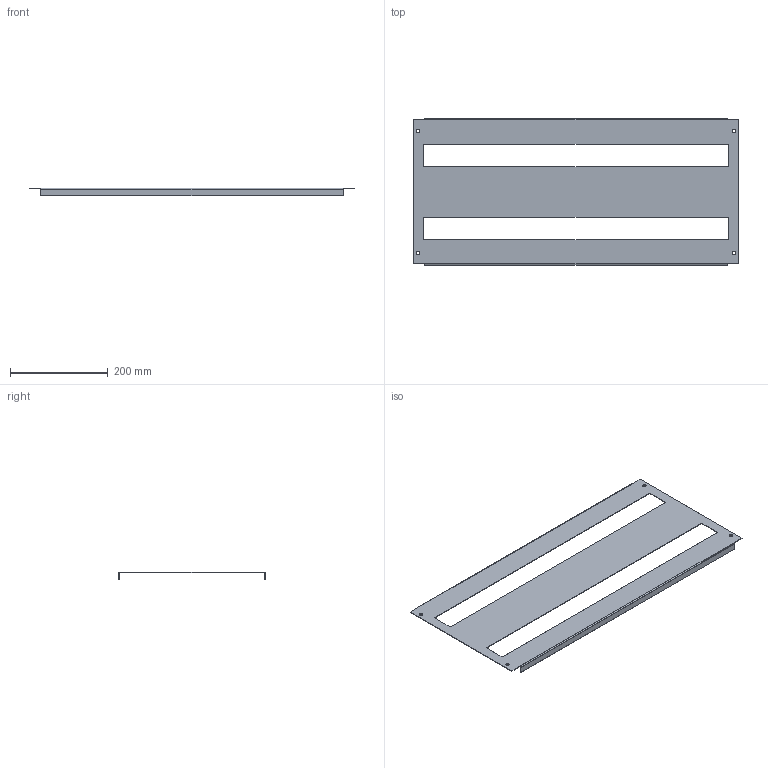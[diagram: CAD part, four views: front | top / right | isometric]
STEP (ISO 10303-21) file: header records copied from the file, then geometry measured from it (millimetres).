
FILE_DESCRIPTION (( 'STEP AP203' ), '1' );
FILE_NAME ('MB 30.70 P Ïàíåëü ìîäóëüíàÿ.STEP', '2012-11-21T07:13:43', ( 'system' ), ( '' ), 'SwSTEP 2.0', 'SolidWorks 2012', '' );
FILE_SCHEMA (( 'CONFIG_CONTROL_DESIGN' ));
Length unit declared in the file: millimetre
Products named in the file (1): MB 30.70 P Ïàíåëü ìîäóëüíàÿ
Bounding box: 665 x 299 x 15 mm (x, y, z)
Volume: 188726.7 mm3; surface area: 320237.3 mm2
Topology: 1 solids, 1 shells, 42 faces, 104 edges, 64 vertices
Faces by surface type: plane 30, cylinder 12
Entity records: 1325 total; most frequent: DIRECTION 214, CARTESIAN_POINT 211, ORIENTED_EDGE 208, EDGE_CURVE 104, VECTOR 80, LINE 80, AXIS2_PLACEMENT_3D 67, VERTEX_POINT 64
